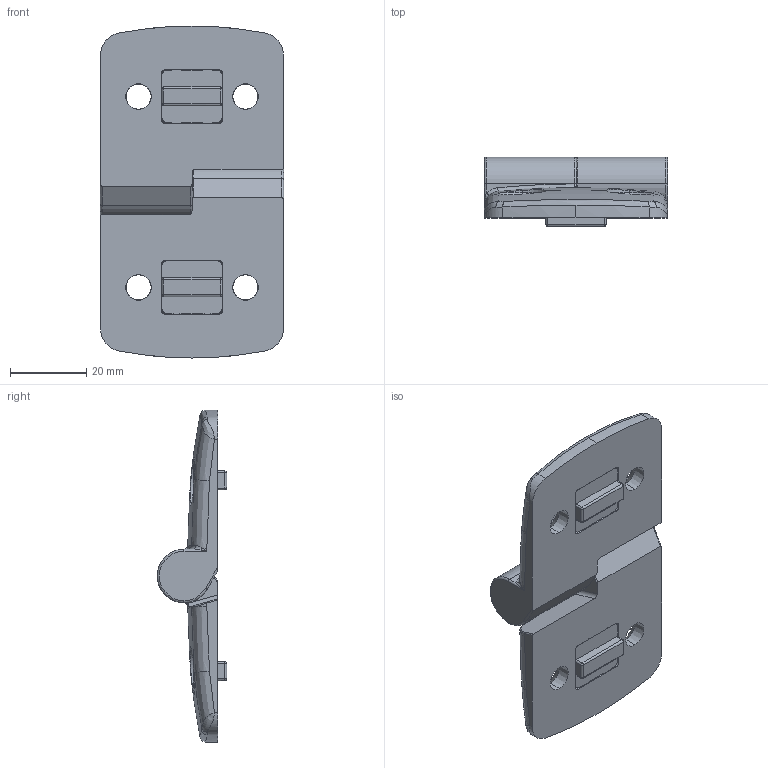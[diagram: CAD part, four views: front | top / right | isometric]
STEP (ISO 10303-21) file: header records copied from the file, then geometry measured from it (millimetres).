
FILE_DESCRIPTION(('STEP AP214'),'1');
FILE_NAME('C:/TPO v2/SharedFS/Outgoing/fath_095a4545r.stp','2016-08-26T10:56:03',('TraceParts'),('TraceParts S.A.'),'Spatial InterOp 3D',' ',' ');
FILE_SCHEMA(('automotive_design'));
Length unit declared in the file: millimetre
Products named in the file (4): fath_095a4545r_1; fath_095a4545r_2; fath_095a4545r_3; fath_095a4545r_4
Bounding box: 48 x 18.2 x 87 mm (x, y, z)
Volume: 27027.5 mm3; surface area: 13802.9 mm2
Topology: 4 solids, 4 shells, 408 faces, 982 edges, 558 vertices
Faces by surface type: cylinder 128, plane 88, torus 70, cone 60, bspline 46, sphere 16
Entity records: 18418 total; most frequent: CARTESIAN_POINT 6120, ORIENTED_EDGE 1904, DIRECTION 1858, EDGE_CURVE 952, AXIS2_PLACEMENT_3D 738, VERTEX_POINT 558, EDGE_LOOP 422, STYLED_ITEM 412
